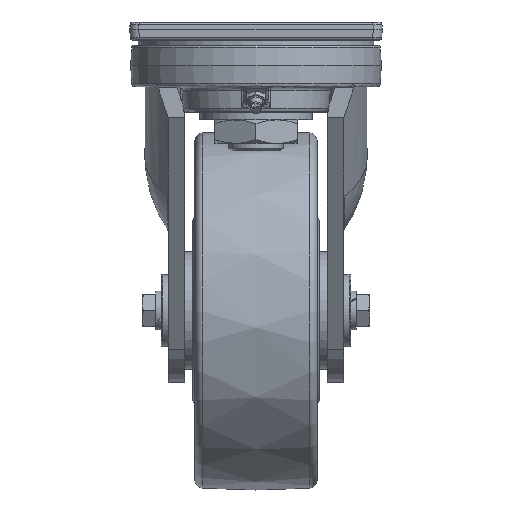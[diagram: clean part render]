
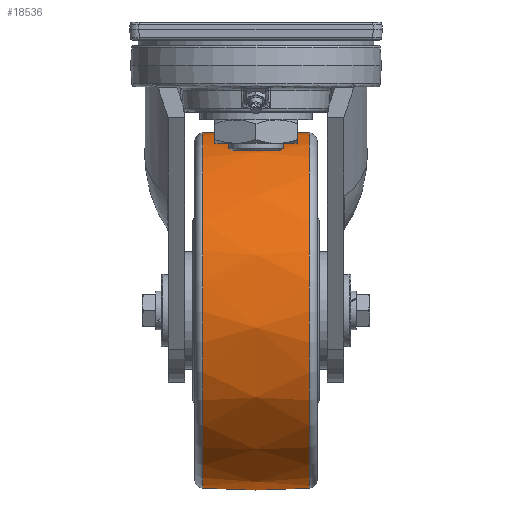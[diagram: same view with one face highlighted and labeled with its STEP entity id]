
A CAD part, left-side view. The second image highlights one B-rep face of the part: STEP entity #18536.
In plain terms, the highlighted free-form (B-spline) face has degree [2, 2] with [3, 9] control points.
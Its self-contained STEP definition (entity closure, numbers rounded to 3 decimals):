
#16=(
BOUNDED_SURFACE()
B_SPLINE_SURFACE(2,2,((#33221,#33222,#33223,#33224,#33225,#33226,#33227,
#33228,#33229),(#33230,#33231,#33232,#33233,#33234,#33235,#33236,#33237,
#33238),(#33239,#33240,#33241,#33242,#33243,#33244,#33245,#33246,#33247)),
 .UNSPECIFIED.,.F.,.T.,.F.)
B_SPLINE_SURFACE_WITH_KNOTS((3,3),(3,2,2,2,3),(-0.098,0.098),
(-3.142,-1.571,0.,1.571,3.142),
 .UNSPECIFIED.)
GEOMETRIC_REPRESENTATION_ITEM()
RATIONAL_B_SPLINE_SURFACE(((1.,0.707,1.,0.707,1.,
0.707,1.,0.707,1.),(0.995,0.704,
0.995,0.704,0.995,0.704,0.995,
0.704,0.995),(1.,0.707,1.,0.707,
1.,0.707,1.,0.707,1.)))
REPRESENTATION_ITEM('')
SURFACE()
);
#1629=CIRCLE('',#19523,98.547);
#1630=CIRCLE('',#19524,98.547);
#1631=CIRCLE('',#19525,300.);
#1632=CIRCLE('',#19526,98.547);
#1633=CIRCLE('',#19527,98.547);
#2793=FACE_OUTER_BOUND('',#3903,.T.);
#3903=EDGE_LOOP('',(#16964,#16965,#16966,#16967,#16968,#16969));
#8849=VERTEX_POINT('',#33216);
#8850=VERTEX_POINT('',#33218);
#8851=VERTEX_POINT('',#33248);
#8852=VERTEX_POINT('',#33250);
#11567=EDGE_CURVE('',#8849,#8850,#1629,.T.);
#11568=EDGE_CURVE('',#8850,#8849,#1630,.T.);
#11569=EDGE_CURVE('',#8849,#8851,#1631,.T.);
#11570=EDGE_CURVE('',#8851,#8852,#1632,.T.);
#11571=EDGE_CURVE('',#8852,#8851,#1633,.T.);
#16964=ORIENTED_EDGE('',*,*,#11568,.F.);
#16965=ORIENTED_EDGE('',*,*,#11567,.F.);
#16966=ORIENTED_EDGE('',*,*,#11569,.T.);
#16967=ORIENTED_EDGE('',*,*,#11570,.T.);
#16968=ORIENTED_EDGE('',*,*,#11571,.T.);
#16969=ORIENTED_EDGE('',*,*,#11569,.F.);
#18536=ADVANCED_FACE('',(#2793),#16,.F.);
#19523=AXIS2_PLACEMENT_3D('',#33219,#23029,#23030);
#19524=AXIS2_PLACEMENT_3D('',#33220,#23031,#23032);
#19525=AXIS2_PLACEMENT_3D('',#33249,#23033,#23034);
#19526=AXIS2_PLACEMENT_3D('',#33251,#23035,#23036);
#19527=AXIS2_PLACEMENT_3D('',#33252,#23037,#23038);
#23029=DIRECTION('center_axis',(0.,1.,0.));
#23030=DIRECTION('ref_axis',(0.638,0.,0.77));
#23031=DIRECTION('center_axis',(0.,1.,0.));
#23032=DIRECTION('ref_axis',(0.638,0.,0.77));
#23033=DIRECTION('center_axis',(0.77,0.,
-0.638));
#23034=DIRECTION('ref_axis',(0.638,0.,0.77));
#23035=DIRECTION('center_axis',(0.,1.,0.));
#23036=DIRECTION('ref_axis',(0.638,0.,0.77));
#23037=DIRECTION('center_axis',(0.,1.,0.));
#23038=DIRECTION('ref_axis',(0.638,0.,0.77));
#33216=CARTESIAN_POINT('',(137.83,29.492,-80.08));
#33218=CARTESIAN_POINT('',(12.17,29.492,-231.92));
#33219=CARTESIAN_POINT('Origin',(75.,29.492,-156.));
#33220=CARTESIAN_POINT('Origin',(75.,29.492,-156.));
#33221=CARTESIAN_POINT('Ctrl Pts',(137.83,-29.492,-80.08));
#33222=CARTESIAN_POINT('Ctrl Pts',(213.75,-29.492,-142.91));
#33223=CARTESIAN_POINT('Ctrl Pts',(150.92,-29.492,-218.83));
#33224=CARTESIAN_POINT('Ctrl Pts',(88.09,-29.492,-294.75));
#33225=CARTESIAN_POINT('Ctrl Pts',(12.17,-29.492,-231.92));
#33226=CARTESIAN_POINT('Ctrl Pts',(-63.75,-29.492,
-169.09));
#33227=CARTESIAN_POINT('Ctrl Pts',(-0.92,-29.492,
-93.17));
#33228=CARTESIAN_POINT('Ctrl Pts',(61.91,-29.492,-17.25));
#33229=CARTESIAN_POINT('Ctrl Pts',(137.83,-29.492,-80.08));
#33230=CARTESIAN_POINT('Ctrl Pts',(139.688,0.,
-77.836));
#33231=CARTESIAN_POINT('Ctrl Pts',(217.852,0.,
-142.523));
#33232=CARTESIAN_POINT('Ctrl Pts',(153.164,0.,
-220.688));
#33233=CARTESIAN_POINT('Ctrl Pts',(88.477,0.,
-298.852));
#33234=CARTESIAN_POINT('Ctrl Pts',(10.312,0.,
-234.164));
#33235=CARTESIAN_POINT('Ctrl Pts',(-67.852,0.,
-169.477));
#33236=CARTESIAN_POINT('Ctrl Pts',(-3.164,0.,
-91.312));
#33237=CARTESIAN_POINT('Ctrl Pts',(61.523,0.,
-13.148));
#33238=CARTESIAN_POINT('Ctrl Pts',(139.688,0.,
-77.836));
#33239=CARTESIAN_POINT('Ctrl Pts',(137.83,29.492,-80.08));
#33240=CARTESIAN_POINT('Ctrl Pts',(213.75,29.492,-142.91));
#33241=CARTESIAN_POINT('Ctrl Pts',(150.92,29.492,-218.83));
#33242=CARTESIAN_POINT('Ctrl Pts',(88.09,29.492,-294.75));
#33243=CARTESIAN_POINT('Ctrl Pts',(12.17,29.492,-231.92));
#33244=CARTESIAN_POINT('Ctrl Pts',(-63.75,29.492,-169.09));
#33245=CARTESIAN_POINT('Ctrl Pts',(-0.92,29.492,
-93.17));
#33246=CARTESIAN_POINT('Ctrl Pts',(61.91,29.492,-17.25));
#33247=CARTESIAN_POINT('Ctrl Pts',(137.83,29.492,-80.08));
#33248=CARTESIAN_POINT('',(137.83,-29.492,-80.08));
#33249=CARTESIAN_POINT('Origin',(-52.513,0.,
-310.079));
#33250=CARTESIAN_POINT('',(12.17,-29.492,-231.92));
#33251=CARTESIAN_POINT('Origin',(75.,-29.492,-156.));
#33252=CARTESIAN_POINT('Origin',(75.,-29.492,-156.));
